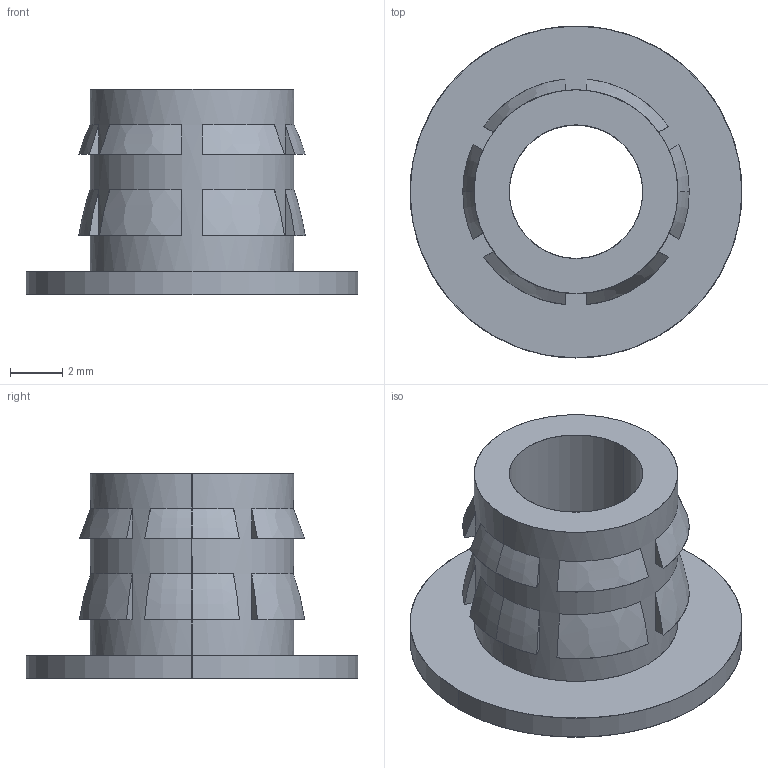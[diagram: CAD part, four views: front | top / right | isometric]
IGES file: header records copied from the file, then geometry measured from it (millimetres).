
Start section: SolidWorks IGES file using analytic representation for surfaces
Global section: file name: G:\thermofab project\INSERT\insert project\INSERT 3D\Flanged insert 1(4)-20 S1.IGS; native system: SolidWorks 2015; preprocessor: SolidWorks 2015; author: Administrator; date: 170809.154806; units: millimetre
Bounding box: 12.7 x 12.7 x 7.86 mm (x, y, z)
Surface area: 568.9 mm2 (no closed solid volume)
Topology: 0 solids, 0 shells, 63 faces, 544 edges, 544 vertices
Faces by surface type: bspline 55, revolution 8
